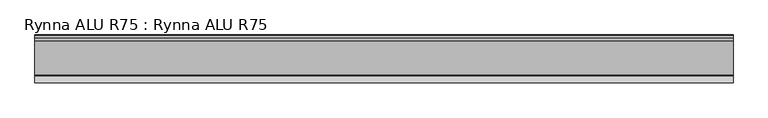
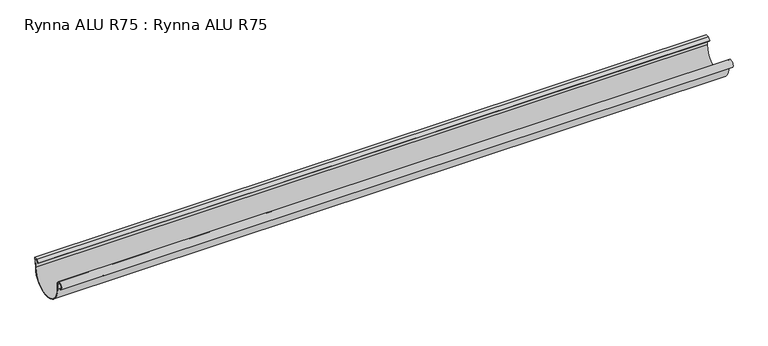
"""IFC4 building model written with IfcOpenShell, lengths in millimetres: proxy geometry, Rynna ALU R75 : Rynna ALU R75."""

from ifc_helpers import new_model, si_unit, point, frame, frame_2d, origin, place, context, project, spatial, polyline, circle_curve, trimmed, segment, composite_curve, outline, extrude, source, transform, mapped, element, save


def rynna_alu_r75_rynna_alu_r75_795bf1eb(model_context):
    return source(origin(), model_context, "Body", "SweptSolid", [
        extrude(outline(composite_curve([segment(polyline([(-77.0000001, -18.8928858), (-77.0000001, -9.298839)]), True, "CONTINUOUS"), segment(trimmed(circle_curve(frame_2d((-83.065591, -8.6518374)), 6.1000004), [point((-77.0000001, -9.298839))], [point((-86.1676128, -13.9042145))], True, "CARTESIAN"), True, "CONTINUOUS"), segment(polyline([(-86.1676128, -13.9042145), (-86.1676128, -15.0383413)]), True, "CONTINUOUS"), segment(trimmed(circle_curve(frame_2d((-83.0655965, -8.651839)), 7.0999941), [point((-86.1676128, -15.0383413))], [point((-76.0000118, -9.3500002))], False, "CARTESIAN"), True, "CONTINUOUS"), segment(polyline([(-76.0000118, -9.3500002), (-76.0000118, -18.8754102)]), True, "CONTINUOUS"), segment(trimmed(circle_curve(frame_2d((-39.5000101, -18.8754102)), 36.5000017), [point((-76.0000118, -18.8754102))], [point((-3.0000084, -18.8754102))], True, "CARTESIAN"), True, "CONTINUOUS"), segment(polyline([(-3.0000084, -18.8754102), (-1.1093439, -0.9821469)]), True, "CONTINUOUS"), segment(trimmed(circle_curve(frame_2d((-0.8393369, -17.5562346)), 16.5762868), [point((-1.1093439, -0.9821469))], [point((-4.8989693, -1.4847483))], True, "CARTESIAN"), True, "CONTINUOUS"), segment(polyline([(-4.8989693, -1.4847483), (-10.02274, -6.608519), (-10.7298468, -5.9014122), (-5.4142136, -0.585779)]), True, "CONTINUOUS"), segment(trimmed(circle_curve(frame_2d((-0.8393369, -17.5562346)), 17.5762868), [point((-5.4142136, -0.585779))], [point((0.0, 0.0))], False, "CARTESIAN"), True, "CONTINUOUS"), segment(polyline([(0.0, 0.0), (-2.0, -18.8928858)]), True, "CONTINUOUS"), segment(trimmed(circle_curve(frame_2d((-39.5, -18.8928858)), 37.5), [point((-2.0, -18.8928858))], [point((-77.0000001, -18.8928858))], False, "CARTESIAN"), True, "CONTINUOUS")], self_intersect=False)), frame((-656.1166258, 0.0, 0.0), z_axis=(1.0, 0.0, 0.0), x_axis=(0.0, 1.0, 0.0)), (0.0, 0.0, 1.0), 1312.2332516),
    ])


if __name__ == "__main__":
    model = new_model("IFC4")
    model_context = context("Model", 3, world=origin())
    ifc_project = project(units=[si_unit("LENGTHUNIT", "METRE", prefix="MILLI")], contexts=[model_context])
    site = spatial("IfcSite", under=ifc_project)
    building = spatial("IfcBuilding", under=site)
    placement = place(None, origin())
    rynna_alu_r75_rynna_alu_r75_shape = rynna_alu_r75_rynna_alu_r75_795bf1eb(model_context)
    element("IfcBuildingElementProxy", 1, Name="Rynna ALU R75 : Rynna ALU R75", ObjectType="Rynna ALU R75 : Rynna ALU R75", at=placement, inside=building, context=model_context, shape_type="MappedRepresentation", body=[
        mapped(rynna_alu_r75_rynna_alu_r75_shape, transform((0.0, 0.0, 0.0), x_axis=(1.0, 0.0, 0.0), y_axis=(0.0, 1.0, 0.0), z_axis=(0.0, 0.0, 1.0))),
    ])
    save(model, "model.ifc")
